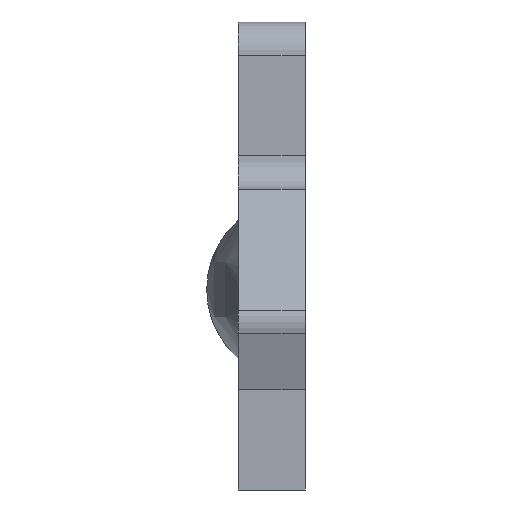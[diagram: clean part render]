
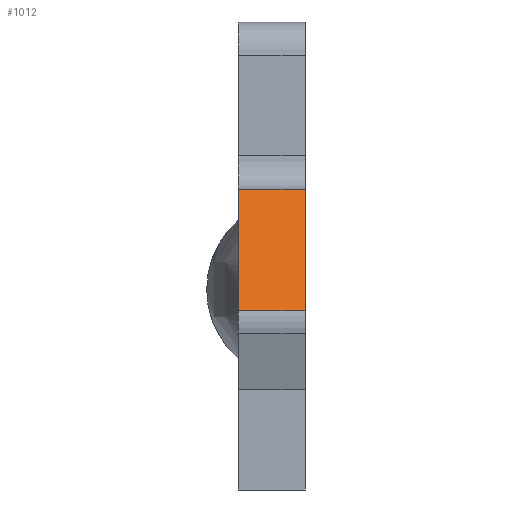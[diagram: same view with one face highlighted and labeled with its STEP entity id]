
A CAD part, left-side view. The second image highlights one B-rep face of the part: STEP entity #1012.
In plain terms, the highlighted planar face has unit normal (-0.93, 0, 0.366).
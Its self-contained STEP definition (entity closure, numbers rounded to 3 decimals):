
#23=DIRECTION('',(0.366,0.,0.93));
#24=VECTOR('',#23,0.391);
#25=CARTESIAN_POINT('',(-0.143,0.,-0.363));
#26=LINE('',#25,#24);
#219=DIRECTION('',(-0.366,0.,-0.93));
#220=VECTOR('',#219,0.391);
#221=CARTESIAN_POINT('',(0.,0.2,0.));
#222=LINE('',#221,#220);
#321=DIRECTION('',(0.,1.,0.));
#322=VECTOR('',#321,0.2);
#323=CARTESIAN_POINT('',(0.,0.,0.));
#324=LINE('',#323,#322);
#325=DIRECTION('',(0.,-1.,0.));
#326=VECTOR('',#325,0.2);
#327=CARTESIAN_POINT('',(-0.143,0.2,-0.363));
#328=LINE('',#327,#326);
#529=CARTESIAN_POINT('',(-0.143,0.,-0.363));
#530=VERTEX_POINT('',#529);
#531=CARTESIAN_POINT('',(0.,0.,0.));
#532=VERTEX_POINT('',#531);
#609=CARTESIAN_POINT('',(0.,0.2,0.));
#610=VERTEX_POINT('',#609);
#611=CARTESIAN_POINT('',(-0.143,0.2,-0.363));
#612=VERTEX_POINT('',#611);
#1000=CARTESIAN_POINT('',(-0.072,0.1,-0.182));
#1001=DIRECTION('',(-0.93,0.,0.366));
#1002=DIRECTION('',(0.366,0.,0.93));
#1003=AXIS2_PLACEMENT_3D('',#1000,#1001,#1002);
#1004=PLANE('',#1003);
#1005=ORIENTED_EDGE('',*,*,#794,.F.);
#1006=ORIENTED_EDGE('',*,*,#993,.F.);
#1007=ORIENTED_EDGE('',*,*,#645,.F.);
#1009=ORIENTED_EDGE('',*,*,#1008,.F.);
#1010=EDGE_LOOP('',(#1005,#1006,#1007,#1009));
#1011=FACE_OUTER_BOUND('',#1010,.F.);
#1012=ADVANCED_FACE('',(#1011),#1004,.T.);
#645=EDGE_CURVE('',#530,#532,#26,.T.);
#794=EDGE_CURVE('',#610,#612,#222,.T.);
#993=EDGE_CURVE('',#532,#610,#324,.T.);
#1008=EDGE_CURVE('',#612,#530,#328,.T.);
